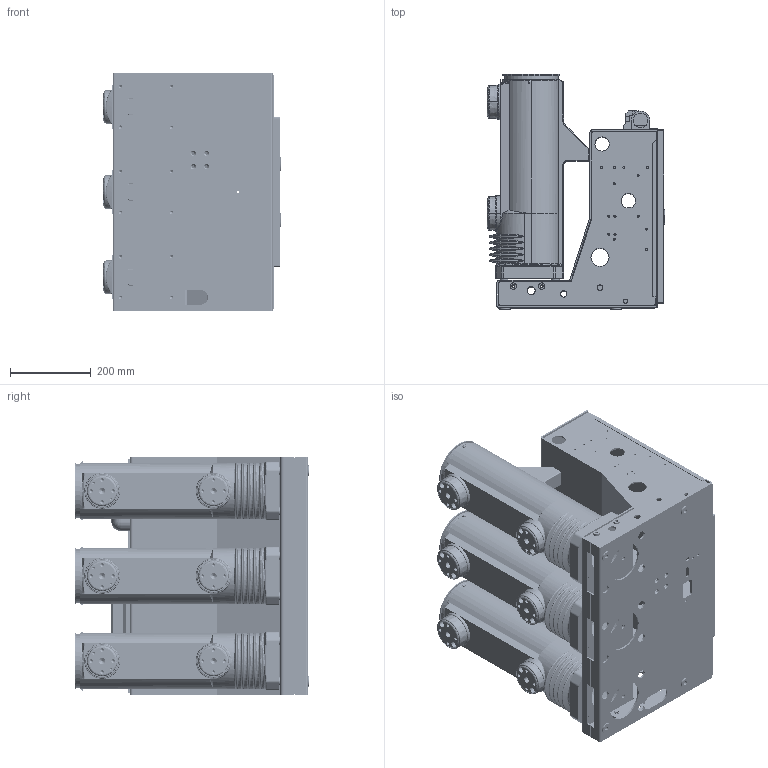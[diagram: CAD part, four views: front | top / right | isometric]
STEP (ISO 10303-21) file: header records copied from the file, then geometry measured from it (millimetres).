
FILE_DESCRIPTION (( 'STEP AP203' ), '1' );
FILE_NAME ('VS1-12-1250-31.5-210绝缘筒固定式断路器（stp）.STEP', '2024-03-07T09:09:14', ( '微软用户' ), ( '微软中国' ), 'SwSTEP 2.0', 'SolidWorks 2020', '' );
FILE_SCHEMA (( 'CONFIG_CONTROL_DESIGN' ));
Length unit declared in the file: millimetre
Products named in the file (13): VS1-12-1250-31.5-210绝缘筒固定框架零件; 呿蹋醱啣 (2); 沺醱啣210-嘐隅; 塹芛BZ; 51弇諉盄傷赽齬BZ; 1250-31.5-210橈埽芠; 210标准绝缘筒上出线LJ; 210标准绝缘筒下出线LJ; 1250-31.5-210橈埽芠蚾饜极; 橈埽芠裔赽-1250-31.5; VS1-12-1250-31.5-210绝缘筒固定式断路器（stp）
Assembly tree (20 placements, depth 3):
  VS1-12-1250-31.5-210绝缘筒固定式断路器（stp）
    VS1-12-1250-31.5-210绝缘筒固定框架零件
    呿蹋醱啣 (2)
    沺醱啣210-嘐隅
    塹芛BZ
    51弇諉盄傷赽齬BZ
    1250-31.5-210橈埽芠蚾饜极
      1250-31.5-210橈埽芠
      210标准绝缘筒上出线LJ
      210标准绝缘筒下出线LJ
    橈埽芠裔赽-1250-31.5  x3
    1250-31.5-210橈埽芠蚾饜极
      1250-31.5-210橈埽芠
      210标准绝缘筒上出线LJ
      210标准绝缘筒下出线LJ
    1250-31.5-210橈埽芠蚾饜极
      1250-31.5-210橈埽芠
      210标准绝缘筒上出线LJ
      210标准绝缘筒下出线LJ
Bounding box: 438.41 x 580 x 588 mm (x, y, z)
Volume: 13611597.5 mm3; surface area: 4652207.2 mm2
Topology: 97 solids, 109 shells, 4161 faces, 10332 edges, 6496 vertices
Faces by surface type: plane 2029, cylinder 1179, bspline 783, cone 168, sphere 2
Entity records: 116170 total; most frequent: CARTESIAN_POINT 44391, ORIENTED_EDGE 14454, DIRECTION 13991, EDGE_CURVE 7227, VECTOR 4951, LINE 4951, VERTEX_POINT 4744, AXIS2_PLACEMENT_3D 4520
